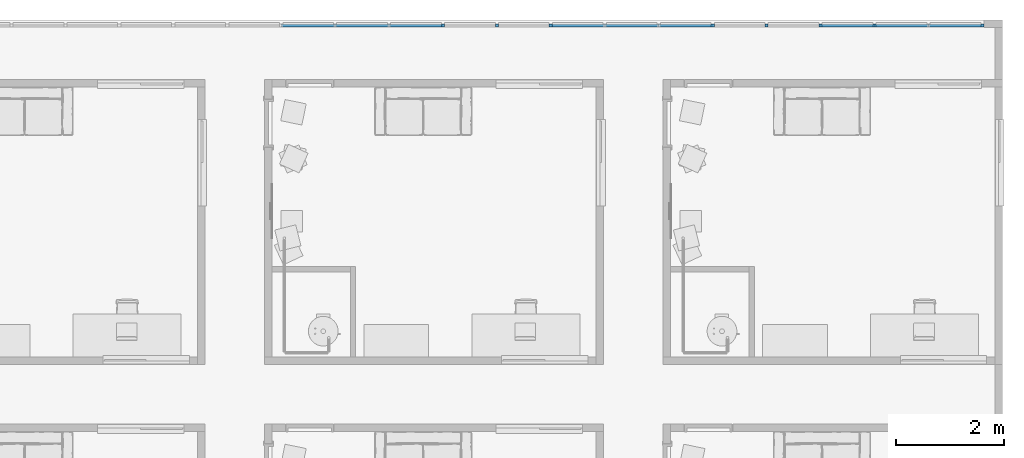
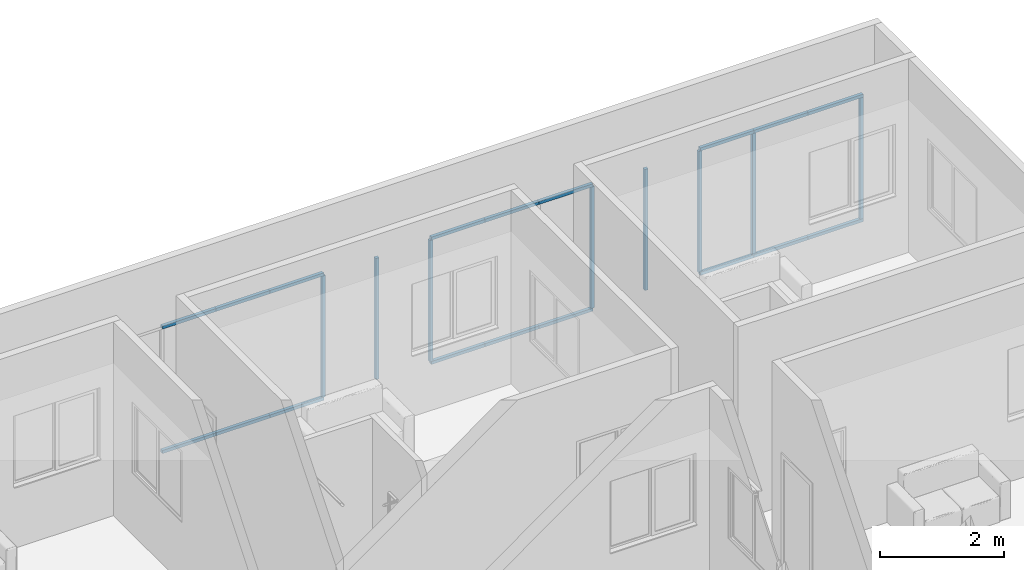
# One storey, part 4 of 71: 26 members, 1 element without a shape of its own.
"""IFC4 building model written with IfcOpenShell, lengths in centimetres."""

from ifc_helpers import new_model, entity, si_unit, converted_unit, derived_unit, direction, frame, origin, place, context, subcontext, project, spatial, indexed_curve, outline, extrude, source, transform, mapped, material, type_object, type_shapes, element, aggregate, save


model = new_model("IFC4")

# Units and contexts
model_context = context("Model", 3, precision=0.001, world=origin(), true_north=direction((6.123233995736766e-17, 1.0)))
body_context = subcontext(model_context, "Body", "Model", "MODEL_VIEW")
ifc_project = project(units=[si_unit("LENGTHUNIT", "METRE", prefix="CENTI"), si_unit("AREAUNIT", "SQUARE_METRE"), si_unit("VOLUMEUNIT", "CUBIC_METRE"), derived_unit("THERMALTRANSMITTANCEUNIT", [(si_unit("MASSUNIT", "GRAM", prefix="KILO"), 1), (si_unit("THERMODYNAMICTEMPERATUREUNIT", "KELVIN"), -1), (si_unit("TIMEUNIT", "SECOND"), -3)]), converted_unit("PLANEANGLEUNIT", "DEGREE", entity("IfcPlaneAngleMeasure", 0.017453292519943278), si_unit("PLANEANGLEUNIT", "RADIAN"), dimensions=[0, 0, 0, 0, 0, 0, 0]), derived_unit("MASSDENSITYUNIT", [(si_unit("MASSUNIT", "GRAM", prefix="KILO"), 1), (si_unit("LENGTHUNIT", "METRE"), -3)]), derived_unit("VAPORPERMEABILITYUNIT", [(si_unit("LENGTHUNIT", "METRE"), -1), (si_unit("TIMEUNIT", "SECOND"), 1)]), derived_unit("USERDEFINED", [(si_unit("MASSUNIT", "GRAM", prefix="KILO"), 1), (si_unit("TIMEUNIT", "SECOND"), -3), (si_unit("LENGTHUNIT", "METRE"), 3), (si_unit("ELECTRICCURRENTUNIT", "AMPERE"), -2)]), derived_unit("SPECIFICHEATCAPACITYUNIT", [(si_unit("THERMODYNAMICTEMPERATUREUNIT", "KELVIN"), -1), (si_unit("LENGTHUNIT", "METRE"), 2), (si_unit("TIMEUNIT", "SECOND"), -2)]), derived_unit("THERMALCONDUCTANCEUNIT", [(si_unit("MASSUNIT", "GRAM", prefix="KILO"), 1), (si_unit("THERMODYNAMICTEMPERATUREUNIT", "KELVIN"), -1), (si_unit("TIMEUNIT", "SECOND"), -3), (si_unit("LENGTHUNIT", "METRE"), 1)]), si_unit("PRESSUREUNIT", "PASCAL"), derived_unit("MODULUSOFELASTICITYUNIT", [(si_unit("MASSUNIT", "GRAM", prefix="KILO"), 1), (si_unit("LENGTHUNIT", "METRE"), -1), (si_unit("TIMEUNIT", "SECOND"), -2)]), derived_unit("THERMALEXPANSIONCOEFFICIENTUNIT", [(si_unit("THERMODYNAMICTEMPERATUREUNIT", "KELVIN"), -1)])], contexts=[model_context])

# Site, building, storey
site_placement = place(None, origin())
site = spatial("IfcSite", under=ifc_project, at=site_placement, Name="Default", CompositionType="ELEMENT")
building_placement = place(site_placement, origin())
building = spatial("IfcBuilding", under=site, at=building_placement, Name="IDS Escape Game Building", CompositionType="ELEMENT")
storey_placement = place(building_placement, frame((0.0, 0.0, 1200.0)))
storey = spatial("IfcBuildingStorey", under=building, at=storey_placement, Name="03_Third Floor", CompositionType="ELEMENT", Elevation=1200.0)

# Curtain wall, members
curtain_wall_type = type_object("IfcCurtainWallType", Name="Curtain Wall:ARC_31.3_CWA_LIB_bandraam vast 100cm - profiel 60x60_gen_BERSnl", PredefinedType="NOTDEFINED")
curtain_wall_placement = place(storey_placement, frame((0.0, 0.0, -1200.0)))
curtain_wall = element("IfcCurtainWall", 1, at=curtain_wall_placement, inside=storey, type_object=curtain_wall_type, Name="Curtain Wall:ARC_31.3_CWA_LIB_bandraam vast 100cm - profiel 60x60_gen_BERSnl", ObjectType="Curtain Wall:ARC_31.3_CWA_LIB_bandraam vast 100cm - profiel 60x60_gen_BERSnl", PredefinedType="NOTDEFINED")
ifc_material = material(Name="<Unnamed>")
member_type_1 = type_object("IfcMemberType", Name="Rectangular Mullion:30-_Stijl_Rechthoek_Midden_B60xD60", PredefinedType="MULLION", material=ifc_material)
shared_shape_1 = source(origin(), body_context, "Body", "SweptSolid", [
    extrude(outline(indexed_curve([(-3.0, -3.0), (3.0, -3.0), (3.0, 3.0), (-3.0, 3.0), (-3.0, -3.0)], self_intersect=False)), frame((-3.0, 3.0, -102.84313728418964), z_axis=(0.0, 0.0, 1.0), x_axis=(-1.0, 0.0, 0.0)), (0.0, 0.0, 1.0), 102.84313728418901),
])
type_shapes(member_type_1, [shared_shape_1])
member_1_placement = place(curtain_wall_placement, frame((5015.0, 3182.0, 1450.0), z_axis=(1.0, 0.0, 0.0), x_axis=(0.0, 0.0, 1.0)))
member_1 = element("IfcMember", 2, at=member_1_placement, type_object=member_type_1, material=ifc_material, Name="Rectangular Mullion:30-_Stijl_Rechthoek_Midden_B60xD60", ObjectType="Rectangular Mullion:30-_Stijl_Rechthoek_Midden_B60xD60", PredefinedType="MULLION", context=body_context, shape_type="MappedRepresentation", body=[
    mapped(shared_shape_1, transform((0.0, 0.0, 0.0), scale=1.0)),
])
member_type_2 = type_object("IfcMemberType", Name="Rectangular Mullion:30-_Stijl_Rechthoek_Midden_B60xD60", PredefinedType="MULLION", material=ifc_material)
shared_shape_2 = source(origin(), body_context, "Body", "SweptSolid", [
    extrude(outline(indexed_curve([(-3.0, -3.0), (3.0, -3.0), (3.0, 3.0), (-3.0, 3.0), (-3.0, -3.0)], self_intersect=False)), frame((-3.0, 3.0, -99.84313725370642), z_axis=(0.0, 0.0, 1.0), x_axis=(-1.0, 0.0, 0.0)), (0.0, 0.0, 1.0), 99.84313725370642),
])
type_shapes(member_type_2, [shared_shape_2])
member_2_placement = place(curtain_wall_placement, frame((3813.882352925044, 3182.0, 1450.0), z_axis=(1.0, 0.0, 0.0), x_axis=(0.0, 0.0, 1.0)))
member_2 = element("IfcMember", 3, at=member_2_placement, type_object=member_type_2, material=ifc_material, Name="Rectangular Mullion:30-_Stijl_Rechthoek_Midden_B60xD60", ObjectType="Rectangular Mullion:30-_Stijl_Rechthoek_Midden_B60xD60", PredefinedType="MULLION", context=body_context, shape_type="MappedRepresentation", body=[
    mapped(shared_shape_2, transform((0.0, 0.0, 0.0), scale=1.0)),
])
member_3_placement = place(curtain_wall_placement, frame((3913.7254901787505, 3182.0, 1450.0), z_axis=(1.0, 0.0, 0.0), x_axis=(0.0, 0.0, 1.0)))
member_3 = element("IfcMember", 4, at=member_3_placement, type_object=member_type_2, material=ifc_material, Name="Rectangular Mullion:30-_Stijl_Rechthoek_Midden_B60xD60", ObjectType="Rectangular Mullion:30-_Stijl_Rechthoek_Midden_B60xD60", PredefinedType="MULLION", context=body_context, shape_type="MappedRepresentation", body=[
    mapped(shared_shape_2, transform((0.0, 0.0, 0.0), scale=1.0)),
])
member_4_placement = place(curtain_wall_placement, frame((4013.568627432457, 3182.0, 1450.0), z_axis=(1.0, 0.0, 0.0), x_axis=(0.0, 0.0, 1.0)))
member_4 = element("IfcMember", 5, at=member_4_placement, type_object=member_type_2, material=ifc_material, Name="Rectangular Mullion:30-_Stijl_Rechthoek_Midden_B60xD60", ObjectType="Rectangular Mullion:30-_Stijl_Rechthoek_Midden_B60xD60", PredefinedType="MULLION", context=body_context, shape_type="MappedRepresentation", body=[
    mapped(shared_shape_2, transform((0.0, 0.0, 0.0), scale=1.0)),
])
member_5_placement = place(curtain_wall_placement, frame((4313.098039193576, 3182.0, 1450.0), z_axis=(1.0, 0.0, 0.0), x_axis=(0.0, 0.0, 1.0)))
member_5 = element("IfcMember", 6, at=member_5_placement, type_object=member_type_2, material=ifc_material, Name="Rectangular Mullion:30-_Stijl_Rechthoek_Midden_B60xD60", ObjectType="Rectangular Mullion:30-_Stijl_Rechthoek_Midden_B60xD60", PredefinedType="MULLION", context=body_context, shape_type="MappedRepresentation", body=[
    mapped(shared_shape_2, transform((0.0, 0.0, 0.0), scale=1.0)),
])
member_6_placement = place(curtain_wall_placement, frame((4412.941176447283, 3182.0, 1450.0), z_axis=(1.0, 0.0, 0.0), x_axis=(0.0, 0.0, 1.0)))
member_6 = element("IfcMember", 7, at=member_6_placement, type_object=member_type_2, material=ifc_material, Name="Rectangular Mullion:30-_Stijl_Rechthoek_Midden_B60xD60", ObjectType="Rectangular Mullion:30-_Stijl_Rechthoek_Midden_B60xD60", PredefinedType="MULLION", context=body_context, shape_type="MappedRepresentation", body=[
    mapped(shared_shape_2, transform((0.0, 0.0, 0.0), scale=1.0)),
])
member_7_placement = place(curtain_wall_placement, frame((4512.7843137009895, 3182.0, 1450.0), z_axis=(1.0, 0.0, 0.0), x_axis=(0.0, 0.0, 1.0)))
member_7 = element("IfcMember", 8, at=member_7_placement, type_object=member_type_2, material=ifc_material, Name="Rectangular Mullion:30-_Stijl_Rechthoek_Midden_B60xD60", ObjectType="Rectangular Mullion:30-_Stijl_Rechthoek_Midden_B60xD60", PredefinedType="MULLION", context=body_context, shape_type="MappedRepresentation", body=[
    mapped(shared_shape_2, transform((0.0, 0.0, 0.0), scale=1.0)),
])
member_8_placement = place(curtain_wall_placement, frame((4812.31372546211, 3182.0, 1450.0), z_axis=(1.0, 0.0, 0.0), x_axis=(0.0, 0.0, 1.0)))
member_8 = element("IfcMember", 9, at=member_8_placement, type_object=member_type_2, material=ifc_material, Name="Rectangular Mullion:30-_Stijl_Rechthoek_Midden_B60xD60", ObjectType="Rectangular Mullion:30-_Stijl_Rechthoek_Midden_B60xD60", PredefinedType="MULLION", context=body_context, shape_type="MappedRepresentation", body=[
    mapped(shared_shape_2, transform((0.0, 0.0, 0.0), scale=1.0)),
])
member_9_placement = place(curtain_wall_placement, frame((4912.156862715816, 3182.0, 1450.0), z_axis=(1.0, 0.0, 0.0), x_axis=(0.0, 0.0, 1.0)))
member_9 = element("IfcMember", 10, at=member_9_placement, type_object=member_type_2, material=ifc_material, Name="Rectangular Mullion:30-_Stijl_Rechthoek_Midden_B60xD60", ObjectType="Rectangular Mullion:30-_Stijl_Rechthoek_Midden_B60xD60", PredefinedType="MULLION", context=body_context, shape_type="MappedRepresentation", body=[
    mapped(shared_shape_2, transform((0.0, 0.0, 0.0), scale=1.0)),
])
member_type_3 = type_object("IfcMemberType", Name="Rectangular Mullion:30-_Stijl_Rechthoek_Midden_B60xD60", PredefinedType="MULLION", material=ifc_material)
shared_shape_3 = source(origin(), body_context, "Body", "SweptSolid", [
    extrude(outline(indexed_curve([(-3.0, -3.0), (3.0, -3.0), (3.0, 3.0), (-3.0, 3.0), (-3.0, -3.0)], self_intersect=False)), frame((-3.0, 3.0, -99.84313725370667), z_axis=(0.0, 0.0, 1.0), x_axis=(-1.0, 0.0, 0.0)), (0.0, 0.0, 1.0), 99.84313725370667),
])
type_shapes(member_type_3, [shared_shape_3])
member_10_placement = place(curtain_wall_placement, frame((3714.0392156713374, 3182.0, 1200.0), z_axis=(-1.0, 0.0, 0.0), x_axis=(0.0, 0.0, -1.0)))
member_10 = element("IfcMember", 11, at=member_10_placement, type_object=member_type_3, material=ifc_material, Name="Rectangular Mullion:30-_Stijl_Rechthoek_Midden_B60xD60", ObjectType="Rectangular Mullion:30-_Stijl_Rechthoek_Midden_B60xD60", PredefinedType="MULLION", context=body_context, shape_type="MappedRepresentation", body=[
    mapped(shared_shape_3, transform((0.0, 0.0, 0.0), scale=1.0)),
])
member_11_placement = place(curtain_wall_placement, frame((3813.882352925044, 3182.0, 1200.0), z_axis=(-1.0, 0.0, 0.0), x_axis=(0.0, 0.0, -1.0)))
member_11 = element("IfcMember", 12, at=member_11_placement, type_object=member_type_3, material=ifc_material, Name="Rectangular Mullion:30-_Stijl_Rechthoek_Midden_B60xD60", ObjectType="Rectangular Mullion:30-_Stijl_Rechthoek_Midden_B60xD60", PredefinedType="MULLION", context=body_context, shape_type="MappedRepresentation", body=[
    mapped(shared_shape_3, transform((0.0, 0.0, 0.0), scale=1.0)),
])
member_12_placement = place(curtain_wall_placement, frame((3913.7254901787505, 3182.0, 1200.0), z_axis=(-1.0, 0.0, 0.0), x_axis=(0.0, 0.0, -1.0)))
member_12 = element("IfcMember", 13, at=member_12_placement, type_object=member_type_3, material=ifc_material, Name="Rectangular Mullion:30-_Stijl_Rechthoek_Midden_B60xD60", ObjectType="Rectangular Mullion:30-_Stijl_Rechthoek_Midden_B60xD60", PredefinedType="MULLION", context=body_context, shape_type="MappedRepresentation", body=[
    mapped(shared_shape_3, transform((0.0, 0.0, 0.0), scale=1.0)),
])
member_13_placement = place(curtain_wall_placement, frame((4213.25490193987, 3182.0, 1200.0), z_axis=(-1.0, 0.0, 0.0), x_axis=(0.0, 0.0, -1.0)))
member_13 = element("IfcMember", 14, at=member_13_placement, type_object=member_type_3, material=ifc_material, Name="Rectangular Mullion:30-_Stijl_Rechthoek_Midden_B60xD60", ObjectType="Rectangular Mullion:30-_Stijl_Rechthoek_Midden_B60xD60", PredefinedType="MULLION", context=body_context, shape_type="MappedRepresentation", body=[
    mapped(shared_shape_3, transform((0.0, 0.0, 0.0), scale=1.0)),
])
member_14_placement = place(curtain_wall_placement, frame((4313.098039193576, 3182.0, 1200.0), z_axis=(-1.0, 0.0, 0.0), x_axis=(0.0, 0.0, -1.0)))
member_14 = element("IfcMember", 15, at=member_14_placement, type_object=member_type_3, material=ifc_material, Name="Rectangular Mullion:30-_Stijl_Rechthoek_Midden_B60xD60", ObjectType="Rectangular Mullion:30-_Stijl_Rechthoek_Midden_B60xD60", PredefinedType="MULLION", context=body_context, shape_type="MappedRepresentation", body=[
    mapped(shared_shape_3, transform((0.0, 0.0, 0.0), scale=1.0)),
])
member_15_placement = place(curtain_wall_placement, frame((4412.941176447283, 3182.0, 1200.0), z_axis=(-1.0, 0.0, 0.0), x_axis=(0.0, 0.0, -1.0)))
member_15 = element("IfcMember", 16, at=member_15_placement, type_object=member_type_3, material=ifc_material, Name="Rectangular Mullion:30-_Stijl_Rechthoek_Midden_B60xD60", ObjectType="Rectangular Mullion:30-_Stijl_Rechthoek_Midden_B60xD60", PredefinedType="MULLION", context=body_context, shape_type="MappedRepresentation", body=[
    mapped(shared_shape_3, transform((0.0, 0.0, 0.0), scale=1.0)),
])
member_16_placement = place(curtain_wall_placement, frame((4712.470588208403, 3182.0, 1200.0), z_axis=(-1.0, 0.0, 0.0), x_axis=(0.0, 0.0, -1.0)))
member_16 = element("IfcMember", 17, at=member_16_placement, type_object=member_type_3, material=ifc_material, Name="Rectangular Mullion:30-_Stijl_Rechthoek_Midden_B60xD60", ObjectType="Rectangular Mullion:30-_Stijl_Rechthoek_Midden_B60xD60", PredefinedType="MULLION", context=body_context, shape_type="MappedRepresentation", body=[
    mapped(shared_shape_3, transform((0.0, 0.0, 0.0), scale=1.0)),
])
member_17_placement = place(curtain_wall_placement, frame((4812.31372546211, 3182.0, 1200.0), z_axis=(-1.0, 0.0, 0.0), x_axis=(0.0, 0.0, -1.0)))
member_17 = element("IfcMember", 18, at=member_17_placement, type_object=member_type_3, material=ifc_material, Name="Rectangular Mullion:30-_Stijl_Rechthoek_Midden_B60xD60", ObjectType="Rectangular Mullion:30-_Stijl_Rechthoek_Midden_B60xD60", PredefinedType="MULLION", context=body_context, shape_type="MappedRepresentation", body=[
    mapped(shared_shape_3, transform((0.0, 0.0, 0.0), scale=1.0)),
])
member_type_4 = type_object("IfcMemberType", Name="Rectangular Mullion:30-_Stijl_Rechthoek_Midden_B60xD60", PredefinedType="MULLION", material=ifc_material)
shared_shape_4 = source(origin(), body_context, "Body", "SweptSolid", [
    extrude(outline(indexed_curve([(-3.0, -3.0), (3.0, -3.0), (3.0, 3.0), (-3.0, 3.0), (-3.0, -3.0)], self_intersect=False)), frame((-3.0, 3.0, -102.84313728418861), z_axis=(0.0, 0.0, 1.0), x_axis=(-1.0, 0.0, 0.0)), (0.0, 0.0, 1.0), 102.84313728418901),
])
type_shapes(member_type_4, [shared_shape_4])
member_18_placement = place(curtain_wall_placement, frame((4912.156862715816, 3182.0, 1200.0), z_axis=(-1.0, 0.0, 0.0), x_axis=(0.0, 0.0, -1.0)))
member_18 = element("IfcMember", 19, at=member_18_placement, type_object=member_type_4, material=ifc_material, Name="Rectangular Mullion:30-_Stijl_Rechthoek_Midden_B60xD60", ObjectType="Rectangular Mullion:30-_Stijl_Rechthoek_Midden_B60xD60", PredefinedType="MULLION", context=body_context, shape_type="MappedRepresentation", body=[
    mapped(shared_shape_4, transform((0.0, 0.0, 0.0), scale=1.0)),
])
member_type_5 = type_object("IfcMemberType", Name="Rectangular Mullion:30-_Stijl_Rechthoek_Midden_B60xD60", PredefinedType="MULLION", material=ifc_material)
shared_shape_5 = source(origin(), body_context, "Body", "SweptSolid", [
    extrude(outline(indexed_curve([(-3.0, -3.0), (3.0, -3.0), (3.0, 3.0), (-3.0, 3.0), (-3.0, -3.0)], self_intersect=False)), frame((-3.0, 3.0, -238.0), z_axis=(0.0, 0.0, 1.0), x_axis=(-1.0, 0.0, 0.0)), (0.0, 0.0, 1.0), 238.00000000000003),
])
type_shapes(member_type_5, [shared_shape_5])
member_19_placement = place(curtain_wall_placement, frame((5015.0, 3182.0, 1206.0), z_axis=(0.0, 0.0, -1.0), x_axis=(1.0, 0.0, 0.0)))
member_19 = element("IfcMember", 20, at=member_19_placement, type_object=member_type_5, material=ifc_material, Name="Rectangular Mullion:30-_Stijl_Rechthoek_Midden_B60xD60", ObjectType="Rectangular Mullion:30-_Stijl_Rechthoek_Midden_B60xD60", PredefinedType="MULLION", context=body_context, shape_type="MappedRepresentation", body=[
    mapped(shared_shape_5, transform((0.0, 0.0, 0.0), scale=1.0)),
])
member_type_6 = type_object("IfcMemberType", Name="Rectangular Mullion:30-_Stijl_Rechthoek_Midden_B60xD60", PredefinedType="MULLION", material=ifc_material)
shared_shape_6 = source(origin(), body_context, "Body", "SweptSolid", [
    extrude(outline(indexed_curve([(-3.0, -3.0), (3.0, -3.0), (3.0, 3.0), (-3.0, 3.0), (-3.0, -3.0)], self_intersect=False)), frame((0.0, 3.0, -238.0), z_axis=(0.0, 0.0, 1.0), x_axis=(-1.0, 0.0, 0.0)), (0.0, 0.0, 1.0), 238.00000000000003),
])
type_shapes(member_type_6, [shared_shape_6])
member_20_placement = place(curtain_wall_placement, frame((4013.568627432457, 3182.0, 1206.0), z_axis=(0.0, 0.0, -1.0), x_axis=(1.0, 0.0, 0.0)))
member_20 = element("IfcMember", 21, at=member_20_placement, type_object=member_type_6, material=ifc_material, Name="Rectangular Mullion:30-_Stijl_Rechthoek_Midden_B60xD60", ObjectType="Rectangular Mullion:30-_Stijl_Rechthoek_Midden_B60xD60", PredefinedType="MULLION", context=body_context, shape_type="MappedRepresentation", body=[
    mapped(shared_shape_6, transform((0.0, 0.0, 0.0), scale=1.0)),
])
member_21_placement = place(curtain_wall_placement, frame((4113.411764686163, 3182.0, 1206.0), z_axis=(0.0, 0.0, -1.0), x_axis=(1.0, 0.0, 0.0)))
member_21 = element("IfcMember", 22, at=member_21_placement, type_object=member_type_6, material=ifc_material, Name="Rectangular Mullion:30-_Stijl_Rechthoek_Midden_B60xD60", ObjectType="Rectangular Mullion:30-_Stijl_Rechthoek_Midden_B60xD60", PredefinedType="MULLION", context=body_context, shape_type="MappedRepresentation", body=[
    mapped(shared_shape_6, transform((0.0, 0.0, 0.0), scale=1.0)),
])
member_22_placement = place(curtain_wall_placement, frame((4213.25490193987, 3182.0, 1206.0), z_axis=(0.0, 0.0, -1.0), x_axis=(1.0, 0.0, 0.0)))
member_22 = element("IfcMember", 23, at=member_22_placement, type_object=member_type_6, material=ifc_material, Name="Rectangular Mullion:30-_Stijl_Rechthoek_Midden_B60xD60", ObjectType="Rectangular Mullion:30-_Stijl_Rechthoek_Midden_B60xD60", PredefinedType="MULLION", context=body_context, shape_type="MappedRepresentation", body=[
    mapped(shared_shape_6, transform((0.0, 0.0, 0.0), scale=1.0)),
])
member_23_placement = place(curtain_wall_placement, frame((4512.7843137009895, 3182.0, 1206.0), z_axis=(0.0, 0.0, -1.0), x_axis=(1.0, 0.0, 0.0)))
member_23 = element("IfcMember", 24, at=member_23_placement, type_object=member_type_6, material=ifc_material, Name="Rectangular Mullion:30-_Stijl_Rechthoek_Midden_B60xD60", ObjectType="Rectangular Mullion:30-_Stijl_Rechthoek_Midden_B60xD60", PredefinedType="MULLION", context=body_context, shape_type="MappedRepresentation", body=[
    mapped(shared_shape_6, transform((0.0, 0.0, 0.0), scale=1.0)),
])
member_24_placement = place(curtain_wall_placement, frame((4612.6274509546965, 3182.0, 1206.0), z_axis=(0.0, 0.0, -1.0), x_axis=(1.0, 0.0, 0.0)))
member_24 = element("IfcMember", 25, at=member_24_placement, type_object=member_type_6, material=ifc_material, Name="Rectangular Mullion:30-_Stijl_Rechthoek_Midden_B60xD60", ObjectType="Rectangular Mullion:30-_Stijl_Rechthoek_Midden_B60xD60", PredefinedType="MULLION", context=body_context, shape_type="MappedRepresentation", body=[
    mapped(shared_shape_6, transform((0.0, 0.0, 0.0), scale=1.0)),
])
member_25_placement = place(curtain_wall_placement, frame((4712.470588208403, 3182.0, 1206.0), z_axis=(0.0, 0.0, -1.0), x_axis=(1.0, 0.0, 0.0)))
member_25 = element("IfcMember", 26, at=member_25_placement, type_object=member_type_6, material=ifc_material, Name="Rectangular Mullion:30-_Stijl_Rechthoek_Midden_B60xD60", ObjectType="Rectangular Mullion:30-_Stijl_Rechthoek_Midden_B60xD60", PredefinedType="MULLION", context=body_context, shape_type="MappedRepresentation", body=[
    mapped(shared_shape_6, transform((0.0, 0.0, 0.0), scale=1.0)),
])
member_26_placement = place(curtain_wall_placement, frame((4812.31372546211, 3182.0, 1206.0), z_axis=(0.0, 0.0, -1.0), x_axis=(1.0, 0.0, 0.0)))
member_26 = element("IfcMember", 27, at=member_26_placement, type_object=member_type_6, material=ifc_material, Name="Rectangular Mullion:30-_Stijl_Rechthoek_Midden_B60xD60", ObjectType="Rectangular Mullion:30-_Stijl_Rechthoek_Midden_B60xD60", PredefinedType="MULLION", context=body_context, shape_type="MappedRepresentation", body=[
    mapped(shared_shape_6, transform((0.0, 0.0, 0.0), scale=1.0)),
])
aggregate(curtain_wall, [member_1, member_2, member_3, member_4, member_5, member_6, member_7, member_8, member_9, member_10, member_11, member_12, member_13, member_14, member_15, member_16, member_17, member_18, member_19, member_20, member_21, member_22, member_23, member_24, member_25, member_26])

save(model, "model.ifc")
